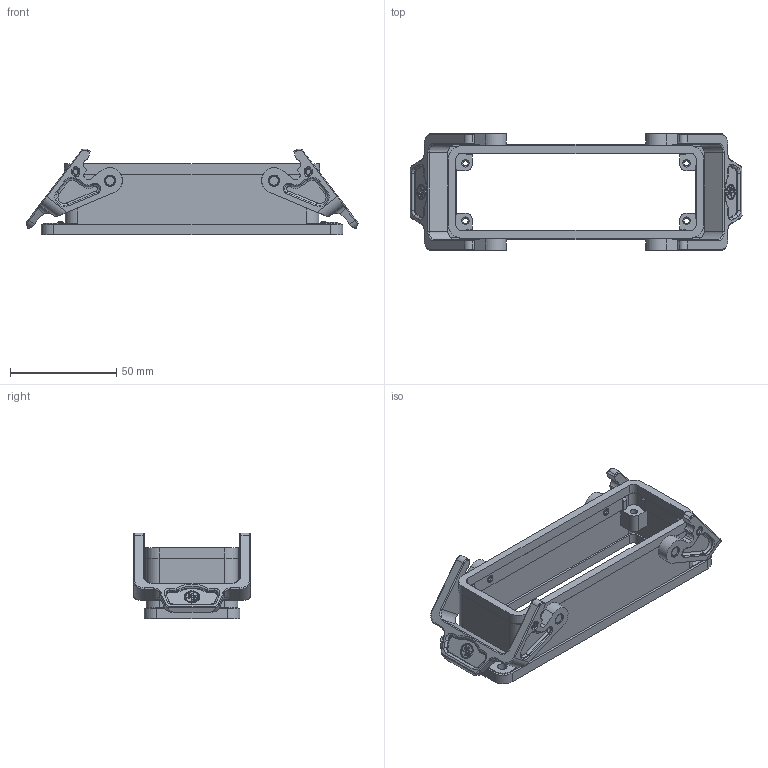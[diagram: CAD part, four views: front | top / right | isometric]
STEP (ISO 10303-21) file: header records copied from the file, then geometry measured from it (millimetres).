
FILE_DESCRIPTION((''),'2;1');
FILE_NAME('E:\WorkFolder\Serie\PB\STEP\PB24B.stp','2010-07-26T15:13:38',('andre'),(''),'Autodesk Inventor 10','Autodesk Inventor 10','');
FILE_SCHEMA(('AUTOMOTIVE_DESIGN { 1 0 10303 214 1 1 1 1 }'));
Length unit declared in the file: millimetre
Products named in the file (1): PB24B
Bounding box: 156.2 x 55 x 40.38 mm (x, y, z)
Volume: 53529.3 mm3; surface area: 38725.8 mm2
Topology: 1 solids, 1 shells, 804 faces, 2013 edges, 1261 vertices
Faces by surface type: plane 365, cylinder 279, torus 70, bspline 62, cone 24, sphere 4
Full cylindrical faces by diameter (mm): 2 x4, 2.5 x4, 3 x4, 3.5 x8, 4.5 x4, 4.763 x4, 5 x4, 5.3 x4, 7.2 x1
Entity records: 30028 total; most frequent: CARTESIAN_POINT 10942, DIRECTION 4067, ORIENTED_EDGE 3850, EDGE_CURVE 1925, AXIS2_PLACEMENT_3D 1455, VERTEX_POINT 1236, VECTOR 1157, LINE 1157
